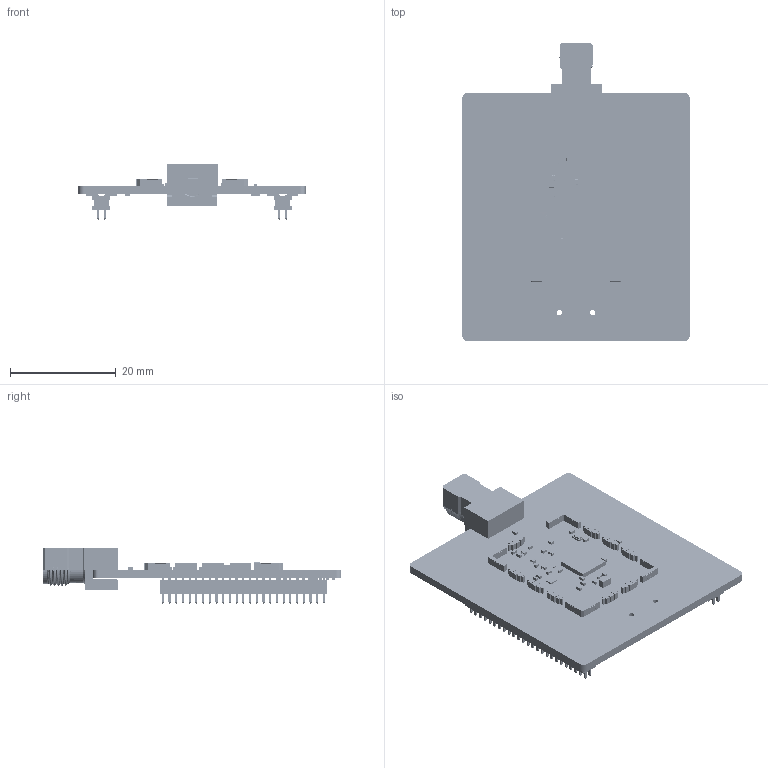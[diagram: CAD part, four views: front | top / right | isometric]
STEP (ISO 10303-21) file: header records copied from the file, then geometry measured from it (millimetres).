
FILE_DESCRIPTION(('Open CASCADE Model'),'2;1');
FILE_NAME('Open CASCADE Shape Model','2025-01-09T12:26:42',('Author'),( 'Open CASCADE'),'Open CASCADE STEP processor 7.5','Open CASCADE 7.5' ,'Unknown');
FILE_SCHEMA(('AUTOMOTIVE_DESIGN { 1 0 10303 214 1 1 1 1 }'));
Length unit declared in the file: millimetre
Products named in the file (131): PCB; Board; Open CASCADE STEP translator 7.5 2.1.1; SB1; R0201; 6971557008; Extruded; L9; Ind_Murata_LQG15HN39NJ02D_eec; 1; 2; Murata Logo 3; 3; SC2; s0981-46; 6971558848; SC13; Shield clip s0951-46; 6971557568; SC12; 6971557328; SC11; SC10; SC9; SB10; R0402; 6971551168; SB7; X1; 6971558528; 6971558448; 6971558368; X2; User Library-NX1612SA; 6971554928; 6971554768; U1; 6971555728; 6971555568; 6971555328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
Assembly tree (194 placements, depth 5):
  PCB
    Board
      Open CASCADE STEP translator 7.5 2.1.1
    SB1
      R0201
      6971557008
        Extruded
    L9
      Ind_Murata_LQG15HN39NJ02D_eec
        1
        2
        Murata Logo 3
        3
    SC2
      s0981-46
      6971558848
        Extruded
    SC13
      Shield clip s0951-46
      6971557568
        Extruded
    SC12
      Shield clip s0951-46
      6971557328
        Extruded
    SC11
      Shield clip s0951-46
      6971557328
        Extruded
    SC10
      Shield clip s0951-46
      6971557328
        Extruded
    SC9
      Shield clip s0951-46
      6971557328
        Extruded
    SB10
      R0402
      6971551168
        Extruded
    SB7
      R0402
      6971551168
        Extruded
    X1
      6971558528
        Extruded
      6971558448
        Extruded
      6971558368
        Extruded
    X2
      User Library-NX1612SA
      6971554928
        Extruded
      6971554768
        Extruded
    U1
      6971555728
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Bounding box: 43 x 56.55 x 10.46 mm (x, y, z)
Volume: 4780.7 mm3; surface area: 8990.5 mm2
Topology: 259 solids, 259 shells, 15743 faces, 40740 edges, 25030 vertices
Faces by surface type: plane 7812, cylinder 3529, bspline 3260, sphere 788, torus 348, cone 6
Full cylindrical faces by diameter (mm): 0.03 x220, 0.5 x2, 0.991 x1, 1 x2, 4.674 x1, 5.08 x1, 5.385 x1
Entity records: 129711 total; most frequent: CARTESIAN_POINT 34586, ORIENTED_EDGE 17898, DIRECTION 16019, EDGE_CURVE 8949, LINE 6645, VECTOR 6645, VERTEX_POINT 5670, AXIS2_PLACEMENT_3D 4687
